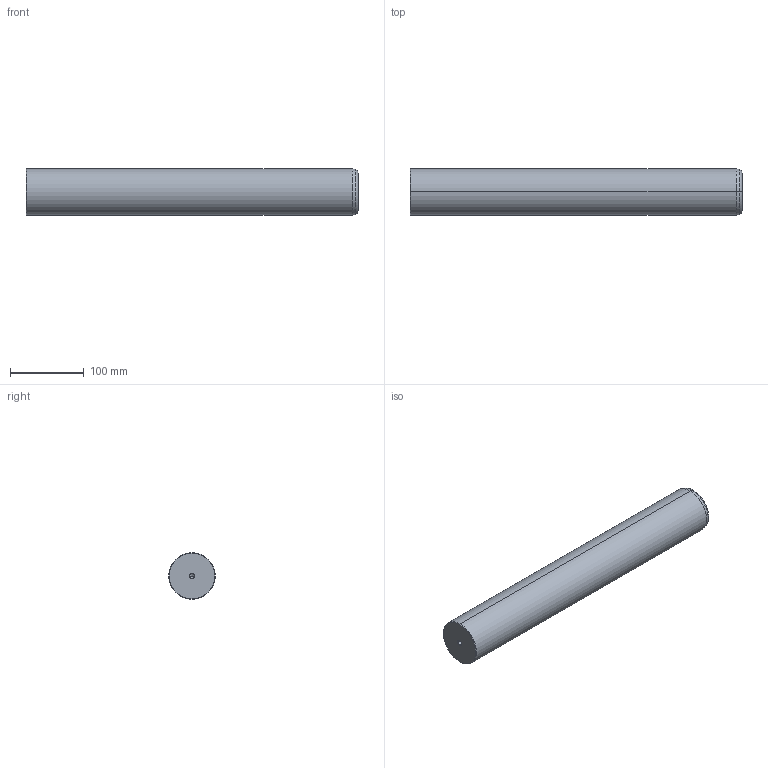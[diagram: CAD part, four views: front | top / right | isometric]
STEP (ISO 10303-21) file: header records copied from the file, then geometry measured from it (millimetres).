
FILE_DESCRIPTION(('CATIA V5 STEP Exchange'),'2;1');
FILE_NAME('C:\Users\Utente\Desktop\IO LAVORO\3D X SITO CF\X SITO\720\720-63x450.stp','2020-12-30T21:25:59+00:00',('none'),('none'),'CATIA Version 5 Release 20 GA (IN-10)','CATIA V5 STEP AP203','none');
FILE_SCHEMA(('CONFIG_CONTROL_DESIGN'));
Length unit declared in the file: millimetre
Products named in the file (1): 720-63x450
Bounding box: 450 x 63 x 63 mm (x, y, z)
Volume: 1398815.3 mm3; surface area: 95586.7 mm2
Topology: 1 solids, 1 shells, 22 faces, 62 edges, 40 vertices
Faces by surface type: cone 12, cylinder 6, plane 2, torus 2
Entity records: 806 total; most frequent: CARTESIAN_POINT 229, ORIENTED_EDGE 116, DIRECTION 93, EDGE_CURVE 58, AXIS2_PLACEMENT_3D 54, VERTEX_POINT 40, CIRCLE 31, EDGE_LOOP 24
